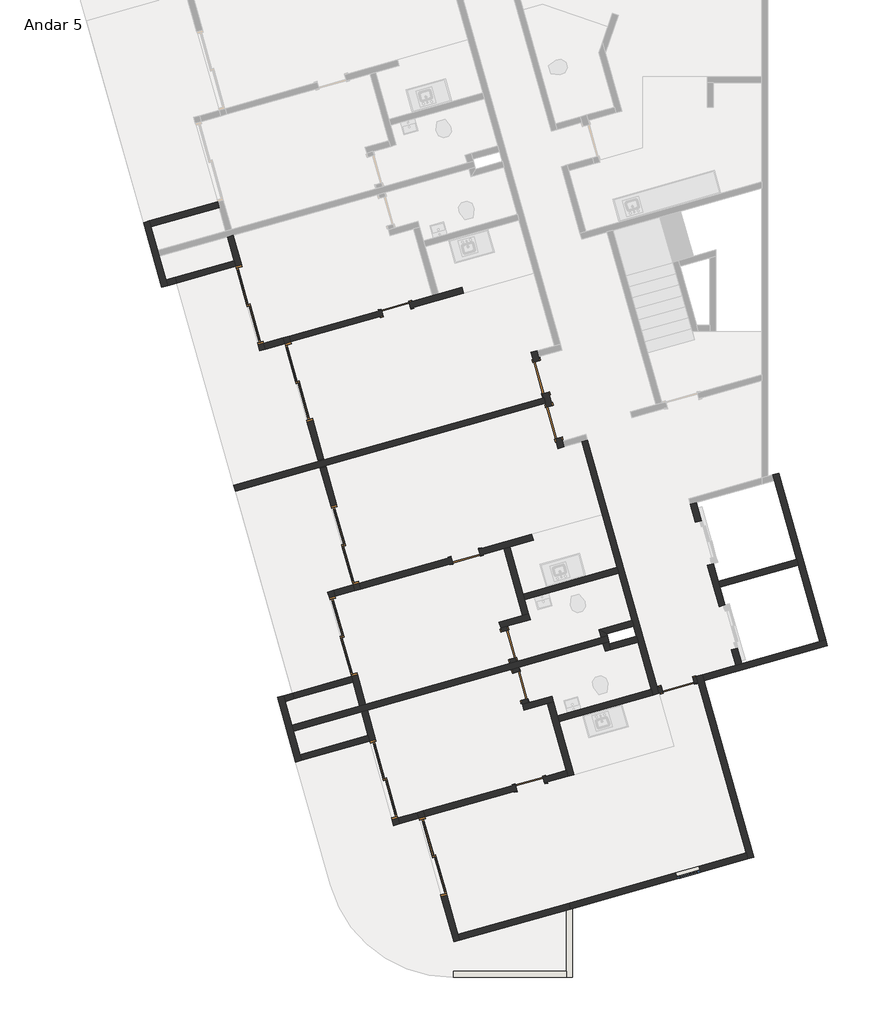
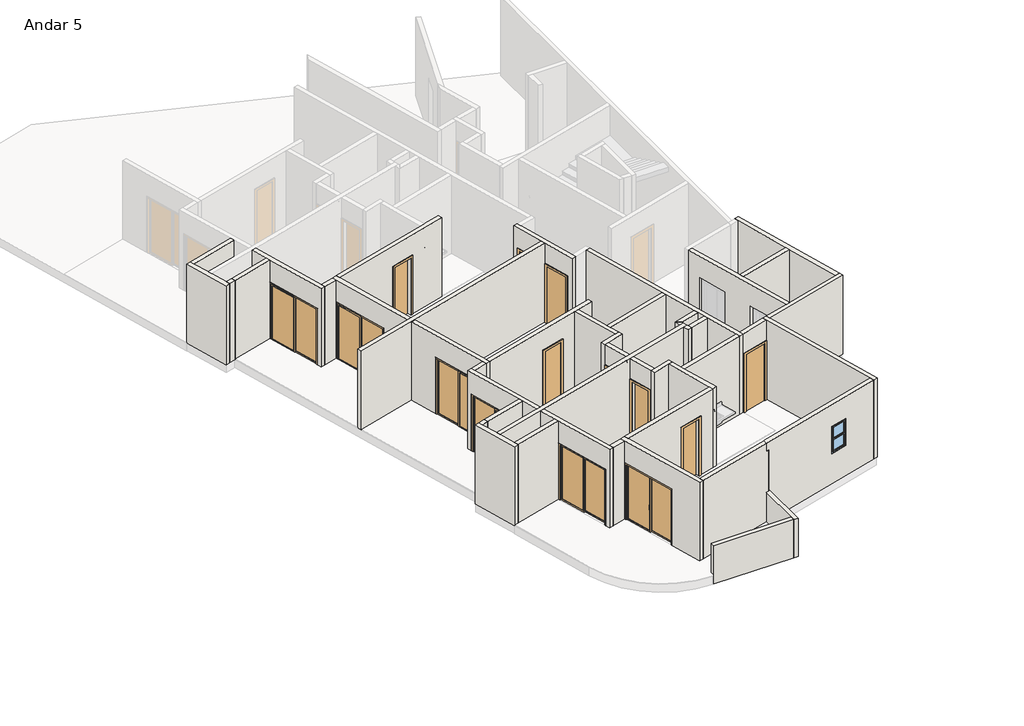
# One storey, part 1 of 3: 46 walls, 14 doors, 1 window.
"""IFC4 building model written with IfcOpenShell, lengths in millimetres."""

from ifc_helpers import new_model, si_unit, frame, origin, place, context, project, spatial, polyline, outline, extrude, faceted_brep, transform, mapped, element, save
from components import p2_80cm_9d4be4ef, p2_80cm_083652d6, p3_70cm_ef4d15e3, p3_70cm_0a698c7c, p4_correr_200cm_eaaa0877, p4_correr_200cm_830b8f20, bx_60cm_cef95a5c

model = new_model("IFC4")

# Units and contexts
model_context = context("Model", 3, world=origin())
ifc_project = project(units=[si_unit("LENGTHUNIT", "METRE", prefix="MILLI")], contexts=[model_context])

# Site, building, storey
site = spatial("IfcSite", under=ifc_project)
building = spatial("IfcBuilding", under=site)
storey = spatial("IfcBuildingStorey", under=building, Name="Andar 5", Elevation=65250.0)

# Doors
placement = place(None, origin())
p2_80cm_shape = p2_80cm_9d4be4ef(model_context)
element("IfcDoor", 1, ObjectType="M_Folha única1 : P2 - 80CM", at=placement, inside=storey, context=model_context, shape_type="MappedRepresentation", body=[
    mapped(p2_80cm_shape, transform((-80566.3456776, 19693.5423602, 65250.0), x_axis=(0.2717679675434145, -0.9623628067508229, 0.0), y_axis=(0.9623628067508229, 0.2717679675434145, 0.0), z_axis=(0.0, 0.0, 1.0))),
])
element("IfcDoor", 2, ObjectType="M_Folha única1 : P2 - 80CM", at=placement, inside=storey, context=model_context, shape_type="MappedRepresentation", body=[
    mapped(p2_80cm_shape, transform((-77213.6668366, 12144.847648, 65250.0), x_axis=(0.9623628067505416, 0.2717679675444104, 0.0), y_axis=(-0.2717679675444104, 0.9623628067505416, 0.0), z_axis=(0.0, 0.0, 1.0))),
])
p2_80cm_2_shape = p2_80cm_083652d6(model_context)
element("IfcDoor", 3, ObjectType="M_Folha única1 : P2 - 80CM", at=placement, inside=storey, context=model_context, shape_type="MappedRepresentation", body=[
    mapped(p2_80cm_2_shape, transform((-80253.8125149, 18586.8251325, 65250.0), x_axis=(-0.2717679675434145, 0.9623628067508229, 0.0), y_axis=(-0.9623628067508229, -0.2717679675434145, 0.0), z_axis=(0.0, 0.0, 1.0))),
])
p3_70cm_shape = p3_70cm_ef4d15e3(model_context)
element("IfcDoor", 4, ObjectType="M_Folha única1 : P3 - 70CM", at=placement, inside=storey, context=model_context, shape_type="MappedRepresentation", body=[
    mapped(p3_70cm_shape, transform((-84129.1775441, 21363.1168842, 65250.0), x_axis=(0.9623628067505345, 0.27176796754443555, 0.0), y_axis=(-0.27176796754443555, 0.9623628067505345, 0.0), z_axis=(0.0, 0.0, 1.0))),
])
element("IfcDoor", 5, ObjectType="M_Folha única1 : P3 - 70CM", at=placement, inside=storey, context=model_context, shape_type="MappedRepresentation", body=[
    mapped(p3_70cm_shape, transform((-80840.7851368, 9718.5269225, 65250.0), x_axis=(0.9623628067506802, 0.2717679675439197, 0.0), y_axis=(-0.2717679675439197, 0.9623628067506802, 0.0), z_axis=(0.0, 0.0, 1.0))),
])
element("IfcDoor", 6, ObjectType="M_Folha única1 : P3 - 70CM", at=placement, inside=storey, context=model_context, shape_type="MappedRepresentation", body=[
    mapped(p3_70cm_shape, transform((-81362.5862327, 13130.1209218, 65250.0), x_axis=(0.27176796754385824, -0.9623628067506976, 0.0), y_axis=(0.9623628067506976, 0.27176796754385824, 0.0), z_axis=(0.0, 0.0, 1.0))),
])
p3_70cm_2_shape = p3_70cm_0a698c7c(model_context)
element("IfcDoor", 7, ObjectType="M_Folha única1 : P3 - 70CM", at=placement, inside=storey, context=model_context, shape_type="MappedRepresentation", body=[
    mapped(p3_70cm_2_shape, transform((-81077.2298668, 12119.6399747, 65250.0), x_axis=(-0.27176796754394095, 0.9623628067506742, 0.0), y_axis=(-0.9623628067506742, -0.27176796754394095, 0.0), z_axis=(0.0, 0.0, 1.0))),
])
element("IfcDoor", 8, ObjectType="M_Folha única1 : P3 - 70CM", at=placement, inside=storey, context=model_context, shape_type="MappedRepresentation", body=[
    mapped(p3_70cm_2_shape, transform((-82417.0393485, 15300.2312016, 65250.0), x_axis=(0.9623628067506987, 0.2717679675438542, 0.0), y_axis=(-0.2717679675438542, 0.9623628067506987, 0.0), z_axis=(0.0, 0.0, 1.0))),
])
p4_correr_200cm_shape = p4_correr_200cm_eaaa0877(model_context)
element("IfcDoor", 9, ObjectType="Porta de correr dupla envidraçada sem revestimento : P4 - CORRER - 200CM", at=placement, inside=storey, context=model_context, shape_type="MappedRepresentation", body=[
    mapped(p4_correr_200cm_shape, transform((-86511.4049952, 19573.3416554, 65250.0), x_axis=(0.2717679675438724, -0.9623628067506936, 0.0), y_axis=(0.9623628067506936, 0.2717679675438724, 0.0), z_axis=(0.0, 0.0, 1.0))),
])
element("IfcDoor", 10, ObjectType="Porta de correr dupla envidraçada sem revestimento : P4 - CORRER - 200CM", at=placement, inside=storey, context=model_context, shape_type="MappedRepresentation", body=[
    mapped(p4_correr_200cm_shape, transform((-87717.4207223, 21466.8516126, 65250.0), x_axis=(0.2717679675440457, -0.9623628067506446, 0.0), y_axis=(0.9623628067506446, 0.2717679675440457, 0.0), z_axis=(0.0, 0.0, 1.0))),
])
element("IfcDoor", 11, ObjectType="Porta de correr dupla envidraçada sem revestimento : P4 - CORRER - 200CM", at=placement, inside=storey, context=model_context, shape_type="MappedRepresentation", body=[
    mapped(p4_correr_200cm_shape, transform((-84429.028315, 9822.2616509, 65250.0), x_axis=(-0.27176796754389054, 0.9623628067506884, 0.0), y_axis=(-0.9623628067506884, -0.27176796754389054, 0.0), z_axis=(0.0, 0.0, 1.0))),
])
element("IfcDoor", 12, ObjectType="Porta de correr dupla envidraçada sem revestimento : P4 - CORRER - 200CM", at=placement, inside=storey, context=model_context, shape_type="MappedRepresentation", body=[
    mapped(p4_correr_200cm_shape, transform((-83223.012588, 7928.7516937, 65250.0), x_axis=(-0.2717679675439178, 0.9623628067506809, 0.0), y_axis=(-0.9623628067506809, -0.2717679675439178, 0.0), z_axis=(0.0, 0.0, 1.0))),
])
p4_correr_200cm_2_shape = p4_correr_200cm_830b8f20(model_context)
element("IfcDoor", 13, ObjectType="Porta de correr dupla envidraçada sem revestimento : P4 - CORRER - 200CM", at=placement, inside=storey, context=model_context, shape_type="MappedRepresentation", body=[
    mapped(p4_correr_200cm_2_shape, transform((-85383.5679299, 15579.5360073, 65250.0), x_axis=(-0.2717679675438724, 0.9623628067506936, 0.0), y_axis=(-0.9623628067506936, -0.2717679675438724, 0.0), z_axis=(0.0, 0.0, 1.0))),
])
element("IfcDoor", 14, ObjectType="Porta de correr dupla envidraçada sem revestimento : P4 - CORRER - 200CM", at=placement, inside=storey, context=model_context, shape_type="MappedRepresentation", body=[
    mapped(p4_correr_200cm_2_shape, transform((-85420.9813965, 13334.8858955, 65250.0), x_axis=(-0.27176796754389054, 0.9623628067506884, 0.0), y_axis=(-0.9623628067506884, -0.27176796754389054, 0.0), z_axis=(0.0, 0.0, 1.0))),
])

# Walls
element("IfcWall", 15, ObjectType="Básica .15 - Externa", at=placement, inside=storey, context=model_context, shape_type="Brep", body=[
    faceted_brep([(-75344.9919691, 7919.3931149, 65250.0), (-76567.7484146, 12249.3196164, 65250.0), (-76608.5136097, 12393.6740374, 65250.0), (-76608.5136097, 12393.6740374, 68150.0), (-76567.7484146, 12249.3196164, 68150.0), (-75344.9919691, 7919.3931149, 68150.0), (-75489.3463901, 7878.6279198, 65250.0), (-75489.3463901, 7878.6279198, 68150.0), (-75530.1115852, 8022.9823408, 68150.0), (-76712.1028356, 12208.5544213, 68150.0), (-76752.8680308, 12352.9088423, 68150.0), (-76752.8680308, 12352.9088423, 65250.0), (-76712.1028356, 12208.5544213, 65250.0), (-75530.1115852, 8022.9823408, 65250.0)], [[[0, 1, 2, 3, 4, 5]], [[6, 7, 8, 9, 10, 11, 12, 13]], [[2, 1, 0, 6, 13, 12, 11]], [[5, 4, 3, 10, 9, 8, 7]], [[0, 5, 7, 6]], [[3, 2, 11, 10]]]),
])
element("IfcWall", 16, ObjectType="Básica .15 -  Interna", at=placement, inside=storey, context=model_context, shape_type="Brep", body=[
    faceted_brep([(-80529.815701, 19288.21464, 65250.0), (-80502.6389043, 19191.9783593, 65250.0), (-80461.8737092, 19047.6239383, 65250.0), (-80434.6969124, 18951.3876576, 65250.0), (-80434.6969124, 18951.3876576, 67350.0), (-80217.2825384, 18181.4974122, 67350.0), (-80217.2825384, 18181.4974122, 65250.0), (-80149.3405465, 17940.9067105, 65250.0), (-80149.3405465, 17940.9067105, 68150.0), (-80461.8737092, 19047.6239383, 68150.0), (-80502.6389043, 19191.9783593, 68150.0), (-80815.172067, 20298.695587, 68150.0), (-80815.172067, 20298.695587, 65250.0), (-80747.2300751, 20058.1048854, 65250.0), (-80747.2300751, 20058.1048854, 67350.0), (-80529.815701, 19288.21464, 67350.0), (-80290.3424914, 18992.1528527, 67350.0), (-80290.3424914, 18992.1528527, 65250.0), (-80385.46128, 19328.9798351, 65250.0), (-80385.46128, 19328.9798351, 67350.0), (-80602.8756541, 20098.8700805, 67350.0), (-80602.8756541, 20098.8700805, 65250.0), (-80630.0524508, 20195.1063612, 65250.0), (-80670.817646, 20339.4607822, 65250.0), (-80670.817646, 20339.4607822, 68150.0), (-80630.0524508, 20195.1063612, 68150.0), (-80045.7513206, 18126.0263266, 68150.0), (-80004.9861255, 17981.6719056, 68150.0), (-80004.9861255, 17981.6719056, 65250.0), (-80045.7513206, 18126.0263266, 65250.0), (-80072.9281174, 18222.2626073, 65250.0), (-80072.9281174, 18222.2626073, 67350.0)], [[[0, 1, 2, 3, 4, 5, 6, 7, 8, 9, 10, 11, 12, 13, 14, 15]], [[16, 17, 18, 19, 20, 21, 22, 23, 24, 25, 26, 27, 28, 29, 30, 31]], [[13, 12, 23, 22, 21]], [[18, 17, 3, 2, 1, 0]], [[30, 29, 28, 7, 6]], [[11, 10, 9, 8, 27, 26, 25, 24]], [[12, 11, 24, 23]], [[8, 7, 28, 27]], [[19, 18, 0, 15]], [[20, 19, 15, 14]], [[21, 20, 14, 13]], [[4, 3, 17, 16]], [[5, 4, 16, 31]], [[6, 5, 31, 30]]]),
])
element("IfcWall", 17, ObjectType="Básica .15 -  Interna", at=placement, inside=storey, context=model_context, shape_type="Brep", body=[
    faceted_brep([(-79571.9228624, 18103.967491, 65250.0), (-78702.2653663, 15024.4065094, 65250.0), (-78661.5001712, 14880.0520884, 65250.0), (-78335.3786101, 13725.2167203, 65250.0), (-78294.613415, 13580.8622993, 65250.0), (-78226.6714231, 13340.2715976, 65250.0), (-78185.906228, 13195.9171766, 65250.0), (-77818.8200634, 11896.0212586, 65250.0), (-77818.8200634, 11896.0212586, 68150.0), (-78185.906228, 13195.9171766, 68150.0), (-78226.6714231, 13340.2715976, 68150.0), (-78294.613415, 13580.8622993, 68150.0), (-78335.3786101, 13725.2167203, 68150.0), (-78661.5001712, 14880.0520884, 68150.0), (-78702.2653663, 15024.4065094, 68150.0), (-79571.9228624, 18103.967491, 68150.0), (-79427.5684414, 18144.7326862, 65250.0), (-79427.5684414, 18144.7326862, 68150.0), (-77715.2308375, 12081.1408747, 68150.0), (-77674.4656424, 11936.7864537, 68150.0), (-77674.4656424, 11936.7864537, 65250.0), (-77715.2308375, 12081.1408747, 65250.0)], [[[0, 1, 2, 3, 4, 5, 6, 7, 8, 9, 10, 11, 12, 13, 14, 15]], [[16, 17, 18, 19, 20, 21]], [[7, 6, 5, 4, 3, 2, 1, 0, 16, 21, 20]], [[15, 14, 13, 12, 11, 10, 9, 8, 19, 18, 17]], [[0, 15, 17, 16]], [[8, 7, 20, 19]]]),
])
element("IfcWall", 18, ObjectType="Básica .15 -  Interna", at=placement, inside=storey, context=model_context, shape_type="Brep", body=[
    faceted_brep([(-85017.5646639, 11630.3683862, 68150.0), (-85180.6254444, 12207.7860702, 68150.0), (-85221.3906395, 12352.1404912, 68150.0), (-85805.6917697, 14421.2205257, 68150.0), (-85805.6917697, 14421.2205257, 65250.0), (-85764.9265746, 14276.8661047, 65250.0), (-85764.9265746, 14276.8661047, 67350.0), (-85221.3906395, 12352.1404912, 67350.0), (-85221.3906395, 12352.1404912, 65250.0), (-85180.6254444, 12207.7860702, 65250.0), (-85017.5646639, 11630.3683862, 65250.0), (-85661.3373487, 14461.9857209, 68150.0), (-85620.5721536, 14317.6312998, 68150.0), (-84873.2102428, 11671.1335813, 68150.0), (-84873.2102428, 11671.1335813, 65250.0), (-85077.0362185, 12392.9056863, 65250.0), (-85077.0362185, 12392.9056863, 67350.0), (-85620.5721536, 14317.6312998, 67350.0), (-85620.5721536, 14317.6312998, 65250.0), (-85661.3373487, 14461.9857209, 65250.0)], [[[0, 1, 2, 3, 4, 5, 6, 7, 8, 9, 10]], [[11, 12, 13, 14, 15, 16, 17, 18, 19]], [[4, 19, 18, 5]], [[14, 10, 9, 8, 15]], [[3, 2, 1, 0, 13, 12, 11]], [[4, 3, 11, 19]], [[0, 10, 14, 13]], [[17, 6, 5, 18]], [[6, 17, 16, 7]], [[7, 16, 15, 8]]]),
])
element("IfcWall", 19, ObjectType="Básica .15 -  Interna", at=placement, inside=storey, context=model_context, shape_type="Brep", body=[
    faceted_brep([(-82710.8886682, 5839.2890616, 68150.0), (-83566.957766, 8870.7319029, 68150.0), (-83607.7229611, 9015.0863239, 68150.0), (-83607.7229611, 9015.0863239, 65250.0), (-83566.957766, 8870.7319029, 65250.0), (-83566.957766, 8870.7319029, 67350.0), (-83023.4218309, 6946.0062894, 67350.0), (-83023.4218309, 6946.0062894, 65250.0), (-82710.8886682, 5839.2890616, 65250.0), (-83463.3685401, 9055.851519, 68150.0), (-83422.603345, 8911.497098, 68150.0), (-82607.2994424, 6024.4086777, 68150.0), (-82566.5342472, 5880.0542567, 68150.0), (-82566.5342472, 5880.0542567, 65250.0), (-82607.2994424, 6024.4086777, 65250.0), (-82879.0674099, 6986.7714845, 65250.0), (-82879.0674099, 6986.7714845, 67350.0), (-83422.603345, 8911.497098, 67350.0), (-83422.603345, 8911.497098, 65250.0), (-83463.3685401, 9055.851519, 65250.0)], [[[0, 1, 2, 3, 4, 5, 6, 7, 8]], [[9, 10, 11, 12, 13, 14, 15, 16, 17, 18, 19]], [[3, 19, 18, 4]], [[13, 8, 7, 15, 14]], [[2, 1, 0, 12, 11, 10, 9]], [[3, 2, 9, 19]], [[0, 8, 13, 12]], [[17, 5, 4, 18]], [[5, 17, 16, 6]], [[6, 16, 15, 7]]]),
])
element("IfcWall", 20, ObjectType="Básica .15 -  Interna", at=placement, inside=storey, context=model_context, shape_type="Brep", body=[
    faceted_brep([(-86046.8404698, 17652.2925145, 65250.0), (-86046.8404698, 17652.2925145, 68150.0), (-86855.3501733, 20515.3218646, 68150.0), (-86896.1153684, 20659.6762856, 68150.0), (-86896.1153684, 20659.6762856, 65250.0), (-86855.3501733, 20515.3218646, 65250.0), (-86855.3501733, 20515.3218646, 67350.0), (-86311.8142382, 18590.596251, 67350.0), (-86311.8142382, 18590.596251, 65250.0), (-85902.4860488, 17693.0577096, 68150.0), (-85902.4860488, 17693.0577096, 65250.0), (-86167.4598172, 18631.3614462, 65250.0), (-86167.4598172, 18631.3614462, 67350.0), (-86710.9957523, 20556.0870597, 67350.0), (-86710.9957523, 20556.0870597, 65250.0), (-86751.7609474, 20700.4414807, 65250.0), (-86751.7609474, 20700.4414807, 68150.0), (-86710.9957523, 20556.0870597, 68150.0)], [[[0, 1, 2, 3, 4, 5, 6, 7, 8]], [[9, 10, 11, 12, 13, 14, 15, 16, 17]], [[10, 0, 8, 11]], [[4, 15, 14, 5]], [[1, 0, 10, 9]], [[3, 2, 1, 9, 17, 16]], [[4, 3, 16, 15]], [[7, 12, 11, 8]], [[12, 7, 6, 13]], [[13, 6, 5, 14]]]),
])
element("IfcWall", 21, ObjectType="Básica .15 - Externa", at=placement, inside=storey, context=model_context, shape_type="Brep", body=[
    faceted_brep([(-79945.4990038, 6620.2256515, 66350.0), (-79945.4990038, 6620.2256515, 65250.0), (-79945.4990038, 6620.2256515, 64950.0), (-79945.4990038, 5119.4122055, 64950.0), (-79945.4990038, 4969.4122055, 64950.0), (-79945.4990038, 4969.4122055, 66350.0), (-79945.4990038, 5119.4122055, 66350.0), (-79795.4990038, 6662.5851389, 64950.0), (-79795.4990038, 6662.5851389, 66350.0), (-79795.4990038, 4969.4122055, 66350.0), (-79795.4990038, 4969.4122055, 64950.0), (-79850.1164062, 6647.1613711, 64950.0)], [[[0, 1, 2, 3, 4, 5, 6]], [[7, 8, 9, 10]], [[4, 3, 2, 11, 7, 10]], [[0, 6, 5, 9, 8]], [[5, 4, 10, 9]], [[0, 8, 7, 11, 2, 1]]]),
])
element("IfcWall", 22, ObjectType="Básica .15 - Externa", at=placement, inside=storey, context=model_context, shape_type="SweptSolid", body=[
    extrude(outline(polyline([(-82713.5540687, 5119.4122055), (-79945.4990038, 5119.4122055), (-79945.4990038, 4969.4122055), (-82713.5540687, 4969.4122055), (-82713.5540687, 5119.4122055)])), frame((0.0, 0.0, 64950.0), z_axis=(0.0, 0.0, 1.0), x_axis=(1.0, 0.0, 0.0)), (0.0, 0.0, 1.0), 1400.0),
])
element("IfcWall", 23, ObjectType="Básica .15 - Externa", at=placement, inside=storey, context=model_context, shape_type="Brep", body=[
    faceted_brep([(-73581.8825825, 13248.3842954, 65250.0), (-73726.2370035, 13207.6191002, 65250.0), (-75646.150803, 12665.442005, 65250.0), (-75790.505224, 12624.6768098, 65250.0), (-76608.5136097, 12393.6740374, 65250.0), (-76608.5136097, 12393.6740374, 68150.0), (-75790.505224, 12624.6768098, 68150.0), (-75646.150803, 12665.442005, 68150.0), (-73726.2370035, 13207.6191002, 68150.0), (-73581.8825825, 13248.3842954, 68150.0), (-73541.1173874, 13104.0298743, 65250.0), (-73541.1173874, 13104.0298743, 68150.0), (-76567.7484146, 12249.3196164, 68150.0), (-76567.7484146, 12249.3196164, 65250.0)], [[[0, 1, 2, 3, 4, 5, 6, 7, 8, 9]], [[10, 11, 12, 13]], [[4, 3, 2, 1, 0, 10, 13]], [[9, 8, 7, 6, 5, 12, 11]], [[0, 9, 11, 10]], [[5, 4, 13, 12]]]),
])
element("IfcWall", 24, ObjectType="Básica .15 - Externa", at=placement, inside=storey, context=model_context, shape_type="Brep", body=[
    faceted_brep([(-74881.2508656, 17297.6610289, 65250.0), (-74840.4856705, 17153.3066079, 65250.0), (-74296.9497354, 15228.5809944, 65250.0), (-74256.1845402, 15084.2265734, 65250.0), (-73726.2370035, 13207.6191002, 65250.0), (-73726.2370035, 13207.6191002, 68150.0), (-74256.1845402, 15084.2265734, 68150.0), (-74296.9497354, 15228.5809944, 68150.0), (-74840.4856705, 17153.3066079, 68150.0), (-74881.2508656, 17297.6610289, 68150.0), (-74736.8964446, 17338.426224, 65250.0), (-74736.8964446, 17338.426224, 68150.0), (-73581.8825825, 13248.3842954, 68150.0), (-73581.8825825, 13248.3842954, 65250.0)], [[[0, 1, 2, 3, 4, 5, 6, 7, 8, 9]], [[10, 11, 12, 13]], [[4, 3, 2, 1, 0, 10, 13]], [[9, 8, 7, 6, 5, 12, 11]], [[0, 9, 11, 10]], [[5, 4, 13, 12]]]),
])
element("IfcWall", 25, ObjectType="Básica .15 -  Interna", at=placement, inside=storey, context=model_context, shape_type="Brep", body=[
    faceted_brep([(-76483.167581, 15077.4768805, 65250.0), (-76197.8112151, 14066.9959334, 65250.0), (-76197.8112151, 14066.9959334, 67375.0), (-75898.8664508, 13008.396846, 67375.0), (-75898.8664508, 13008.396846, 65250.0), (-75790.505224, 12624.6768098, 65250.0), (-75790.505224, 12624.6768098, 68150.0), (-76904.7538909, 16570.3643175, 68150.0), (-76904.7538909, 16570.3643175, 65250.0), (-76782.1123453, 16136.075968, 65250.0), (-76782.1123453, 16136.075968, 67375.0), (-76483.167581, 15077.4768805, 67375.0), (-76053.4567941, 14107.7611286, 67375.0), (-76053.4567941, 14107.7611286, 65250.0), (-76176.0983397, 14542.0494781, 65250.0), (-76216.8635348, 14686.4038991, 65250.0), (-76338.81316, 15118.2420757, 65250.0), (-76338.81316, 15118.2420757, 67375.0), (-76637.7579243, 16176.8411631, 67375.0), (-76637.7579243, 16176.8411631, 65250.0), (-76760.3994699, 16611.1295126, 65250.0), (-76760.3994699, 16611.1295126, 68150.0), (-76216.8635348, 14686.4038991, 68150.0), (-76176.0983397, 14542.0494781, 68150.0), (-75646.150803, 12665.442005, 68150.0), (-75646.150803, 12665.442005, 65250.0), (-75754.5120298, 13049.1620412, 65250.0), (-75754.5120298, 13049.1620412, 67375.0)], [[[0, 1, 2, 3, 4, 5, 6, 7, 8, 9, 10, 11]], [[12, 13, 14, 15, 16, 17, 18, 19, 20, 21, 22, 23, 24, 25, 26, 27]], [[9, 8, 20, 19]], [[26, 25, 5, 4]], [[16, 15, 14, 13, 1, 0]], [[7, 6, 24, 23, 22, 21]], [[8, 7, 21, 20]], [[6, 5, 25, 24]], [[4, 3, 27, 26]], [[2, 1, 13, 12]], [[3, 2, 12, 27]], [[19, 18, 10, 9]], [[17, 16, 0, 11]], [[18, 17, 11, 10]]]),
])
element("IfcWall", 26, ObjectType="Básica .15 -  Interna", at=placement, inside=storey, context=model_context, shape_type="SweptSolid", body=[
    extrude(outline(polyline([(-74256.1845402, 15084.2265734), (-76176.0983397, 14542.0494781), (-76216.8635348, 14686.4038991), (-74296.9497354, 15228.5809944), (-74256.1845402, 15084.2265734)])), frame((0.0, 0.0, 65250.0), z_axis=(0.0, 0.0, 1.0), x_axis=(1.0, 0.0, 0.0)), (0.0, 0.0, 1.0), 2900.0),
])
element("IfcWall", 27, ObjectType="Básica .15 -  Interna", at=placement, inside=storey, context=model_context, shape_type="Brep", body=[
    faceted_brep([(-82566.5342472, 5880.0542567, 65250.0), (-79945.4990038, 6620.2256515, 65250.0), (-79850.1164062, 6647.1613711, 65250.0), (-79850.1164062, 6647.1613711, 67850.0), (-79945.4990038, 6620.2256515, 67850.0), (-79945.4990038, 6620.2256515, 68150.0), (-82566.5342472, 5880.0542567, 68150.0), (-82607.2994424, 6024.4086777, 65250.0), (-82607.2994424, 6024.4086777, 68150.0), (-79945.4990038, 6776.0920243, 68150.0), (-79945.4990038, 6776.0920243, 67850.0), (-79890.8816014, 6791.5157921, 67850.0), (-79890.8816014, 6791.5157921, 65250.0), (-79945.4990038, 6776.0920243, 65250.0)], [[[0, 1, 2, 3, 4, 5, 6]], [[7, 8, 9, 10, 11, 12, 13]], [[2, 1, 0, 7, 13, 12]], [[6, 5, 9, 8]], [[0, 6, 8, 7]], [[2, 12, 11, 3]], [[10, 4, 3, 11]], [[5, 4, 10, 9]]]),
])
element("IfcWall", 28, ObjectType="Básica .15 -  Interna", at=placement, inside=storey, context=model_context, shape_type="Brep", body=[
    faceted_brep([(-85221.3906395, 12352.1404912, 65250.0), (-86668.7560772, 11943.4094383, 65250.0), (-86668.7560772, 11943.4094383, 68150.0), (-85221.3906395, 12352.1404912, 68150.0), (-85221.3906395, 12352.1404912, 67350.0), (-85180.6254444, 12207.7860702, 65250.0), (-85180.6254444, 12207.7860702, 68150.0), (-86627.9908821, 11799.0550173, 68150.0), (-86627.9908821, 11799.0550173, 65250.0)], [[[0, 1, 2, 3, 4]], [[5, 6, 7, 8]], [[1, 0, 5, 8]], [[2, 1, 8, 7]], [[3, 2, 7, 6]], [[0, 4, 3, 6, 5]]]),
])
element("IfcWall", 29, ObjectType="Básica .15 - Externa", at=placement, inside=storey, context=model_context, shape_type="Brep", body=[
    faceted_brep([(-86444.4738537, 10292.215871, 65250.0), (-86485.2390488, 10436.570292, 65250.0), (-86648.2998293, 11013.987976, 65250.0), (-86689.0650245, 11158.342397, 65250.0), (-86852.125805, 11735.7600811, 65250.0), (-86892.8910001, 11880.1145021, 65250.0), (-86892.8910001, 11880.1145021, 68150.0), (-86852.125805, 11735.7600811, 68150.0), (-86689.0650245, 11158.342397, 68150.0), (-86648.2998293, 11013.987976, 68150.0), (-86485.2390488, 10436.570292, 68150.0), (-86444.4738537, 10292.215871, 68150.0), (-86588.8282747, 10251.4506758, 65250.0), (-86588.8282747, 10251.4506758, 68150.0), (-87037.2454211, 11839.349307, 68150.0), (-87037.2454211, 11839.349307, 65250.0)], [[[0, 1, 2, 3, 4, 5, 6, 7, 8, 9, 10, 11]], [[12, 13, 14, 15]], [[5, 4, 3, 2, 1, 0, 12, 15]], [[11, 10, 9, 8, 7, 6, 14, 13]], [[6, 5, 15, 14]], [[0, 11, 13, 12]]]),
])
element("IfcWall", 30, ObjectType="Básica .15 -  Interna", at=placement, inside=storey, context=model_context, shape_type="Brep", body=[
    faceted_brep([(-86444.4738537, 10292.215871, 65250.0), (-84772.9734931, 10764.2418601, 65250.0), (-84772.9734931, 10764.2418601, 67350.0), (-84772.9734931, 10764.2418601, 68150.0), (-86444.4738537, 10292.215871, 68150.0), (-86485.2390488, 10436.570292, 65250.0), (-86485.2390488, 10436.570292, 68150.0), (-84813.7386882, 10908.5962811, 68150.0), (-84813.7386882, 10908.5962811, 65250.0)], [[[0, 1, 2, 3, 4]], [[5, 6, 7, 8]], [[1, 0, 5, 8]], [[4, 3, 7, 6]], [[0, 4, 6, 5]], [[3, 2, 1, 8, 7]]]),
])
element("IfcWall", 31, ObjectType="Básica .15 - Externa", at=placement, inside=storey, context=model_context, shape_type="Brep", body=[
    faceted_brep([(-89732.866261, 21936.8058326, 65250.0), (-89773.6314561, 22081.1602536, 65250.0), (-89936.6922366, 22658.5779377, 65250.0), (-89977.4574318, 22802.9323587, 65250.0), (-90140.5182123, 23380.3500428, 65250.0), (-90181.2834074, 23524.7044638, 65250.0), (-90181.2834074, 23524.7044638, 68150.0), (-90140.5182123, 23380.3500428, 68150.0), (-89977.4574318, 22802.9323587, 68150.0), (-89936.6922366, 22658.5779377, 68150.0), (-89773.6314561, 22081.1602536, 68150.0), (-89732.866261, 21936.8058326, 68150.0), (-89877.220682, 21896.0406375, 65250.0), (-89877.220682, 21896.0406375, 68150.0), (-90325.6378284, 23483.9392686, 68150.0), (-90325.6378284, 23483.9392686, 65250.0)], [[[0, 1, 2, 3, 4, 5, 6, 7, 8, 9, 10, 11]], [[12, 13, 14, 15]], [[5, 4, 3, 2, 1, 0, 12, 15]], [[11, 10, 9, 8, 7, 6, 14, 13]], [[0, 11, 13, 12]], [[6, 5, 15, 14]]]),
])
element("IfcWall", 32, ObjectType="Básica .15 -  Interna", at=placement, inside=storey, context=model_context, shape_type="Brep", body=[
    faceted_brep([(-88102.1310955, 22553.1862428, 65250.0), (-89549.4965332, 22144.4551899, 65250.0), (-89549.4965332, 22144.4551899, 68150.0), (-88102.1310955, 22553.1862428, 68150.0), (-88061.3659003, 22408.8318218, 65250.0), (-88061.3659003, 22408.8318218, 67350.0), (-88061.3659003, 22408.8318218, 68150.0), (-89508.731338, 22000.1007688, 68150.0), (-89508.731338, 22000.1007688, 65250.0)], [[[0, 1, 2, 3]], [[4, 5, 6, 7, 8]], [[1, 0, 4, 8]], [[2, 1, 8, 7]], [[3, 2, 7, 6]], [[0, 3, 6, 5, 4]]]),
])
element("IfcWall", 33, ObjectType="Básica .15 -  Interna", at=placement, inside=storey, context=model_context, shape_type="Brep", body=[
    faceted_brep([(-90140.5182123, 23380.3500428, 65250.0), (-88469.0178517, 23852.3760319, 65250.0), (-88469.0178517, 23852.3760319, 68150.0), (-90140.5182123, 23380.3500428, 68150.0), (-90181.2834074, 23524.7044638, 65250.0), (-90181.2834074, 23524.7044638, 68150.0), (-88509.7830468, 23996.7304529, 68150.0), (-88509.7830468, 23996.7304529, 67350.0), (-88509.7830468, 23996.7304529, 65250.0)], [[[0, 1, 2, 3]], [[4, 5, 6, 7, 8]], [[1, 0, 4, 8]], [[3, 2, 6, 5]], [[0, 3, 5, 4]], [[2, 1, 8, 7, 6]]]),
])
element("IfcWall", 34, ObjectType="Básica .15 -  Interna", at=placement, inside=storey, context=model_context, shape_type="Brep", body=[
    faceted_brep([(-86896.1153684, 20659.6762856, 65250.0), (-87373.4755442, 20524.8714034, 65250.0), (-87373.4755442, 20524.8714034, 67350.0), (-87373.4755442, 20524.8714034, 68150.0), (-86896.1153684, 20659.6762856, 68150.0), (-86855.3501733, 20515.3218646, 65250.0), (-86855.3501733, 20515.3218646, 67350.0), (-86855.3501733, 20515.3218646, 68150.0), (-87332.7103491, 20380.5169824, 68150.0), (-87332.7103491, 20380.5169824, 65250.0)], [[[0, 1, 2, 3, 4]], [[5, 6, 7, 8, 9]], [[1, 0, 5, 9]], [[4, 3, 8, 7]], [[0, 4, 7, 6, 5]], [[3, 2, 1, 9, 8]]]),
])
element("IfcWall", 35, ObjectType="Básica .15 -  Interna", at=placement, inside=storey, context=model_context, shape_type="Brep", body=[
    faceted_brep([(-83607.7229611, 9015.0863239, 65250.0), (-84085.083137, 8880.2814417, 65250.0), (-84085.083137, 8880.2814417, 67350.0), (-84085.083137, 8880.2814417, 68150.0), (-83607.7229611, 9015.0863239, 68150.0), (-83566.957766, 8870.7319029, 65250.0), (-83566.957766, 8870.7319029, 67350.0), (-83566.957766, 8870.7319029, 68150.0), (-84044.3179418, 8735.9270207, 68150.0), (-84044.3179418, 8735.9270207, 65250.0)], [[[0, 1, 2, 3, 4]], [[5, 6, 7, 8, 9]], [[1, 0, 5, 9]], [[4, 3, 8, 7]], [[3, 2, 1, 9, 8]], [[0, 4, 7, 6, 5]]]),
])
element("IfcWall", 36, ObjectType="Básica .15 -  Interna", at=placement, inside=storey, context=model_context, shape_type="Brep", body=[
    faceted_brep([(-85183.9771729, 14596.790603, 65250.0), (-85661.3373487, 14461.9857209, 65250.0), (-85661.3373487, 14461.9857209, 68150.0), (-85183.9771729, 14596.790603, 68150.0), (-85183.9771729, 14596.790603, 67350.0), (-85143.2119778, 14452.436182, 65250.0), (-85143.2119778, 14452.436182, 68150.0), (-85620.5721536, 14317.6312998, 68150.0), (-85620.5721536, 14317.6312998, 67350.0), (-85620.5721536, 14317.6312998, 65250.0)], [[[0, 1, 2, 3, 4]], [[5, 6, 7, 8, 9]], [[1, 0, 5, 9]], [[3, 2, 7, 6]], [[2, 1, 9, 8, 7]], [[0, 4, 3, 6, 5]]]),
])
element("IfcWall", 37, ObjectType="Básica .15 -  Interna", at=placement, inside=storey, context=model_context, shape_type="Brep", body=[
    faceted_brep([(-87477.0647701, 20339.7517872, 68150.0), (-88061.3659003, 22408.8318218, 68150.0), (-88102.1310955, 22553.1862428, 68150.0), (-88265.191876, 23130.6039268, 68150.0), (-88265.191876, 23130.6039268, 65250.0), (-88102.1310955, 22553.1862428, 65250.0), (-88061.3659003, 22408.8318218, 65250.0), (-88061.3659003, 22408.8318218, 67350.0), (-87517.8299653, 20484.1062083, 67350.0), (-87517.8299653, 20484.1062083, 65250.0), (-87477.0647701, 20339.7517872, 65250.0), (-88120.837455, 23171.369122, 68150.0), (-87373.4755442, 20524.8714034, 68150.0), (-87332.7103491, 20380.5169824, 68150.0), (-87332.7103491, 20380.5169824, 65250.0), (-87373.4755442, 20524.8714034, 65250.0), (-87373.4755442, 20524.8714034, 67350.0), (-87917.0114793, 22449.5970169, 67350.0), (-87917.0114793, 22449.5970169, 65250.0), (-88120.837455, 23171.369122, 65250.0)], [[[0, 1, 2, 3, 4, 5, 6, 7, 8, 9, 10]], [[11, 12, 13, 14, 15, 16, 17, 18, 19]], [[14, 10, 9, 15]], [[4, 19, 18, 6, 5]], [[3, 2, 1, 0, 13, 12, 11]], [[0, 10, 14, 13]], [[4, 3, 11, 19]], [[8, 16, 15, 9]], [[16, 8, 7, 17]], [[17, 7, 6, 18]]]),
])
element("IfcWall", 38, ObjectType="Básica .15 -  Interna", at=placement, inside=storey, context=model_context, shape_type="Brep", body=[
    faceted_brep([(-85143.2119778, 14452.436182, 68150.0), (-85183.9771729, 14596.790603, 68150.0), (-85992.4868763, 17459.8199531, 68150.0), (-85992.4868763, 17459.8199531, 65250.0), (-85727.513108, 16521.5162165, 65250.0), (-85727.513108, 16521.5162165, 67350.0), (-85183.9771729, 14596.790603, 67350.0), (-85183.9771729, 14596.790603, 65250.0), (-85143.2119778, 14452.436182, 65250.0), (-85848.1324553, 17500.5851482, 68150.0), (-85039.6227519, 14637.5557982, 68150.0), (-84998.8575568, 14493.2013772, 68150.0), (-84998.8575568, 14493.2013772, 65250.0), (-85039.6227519, 14637.5557982, 65250.0), (-85039.6227519, 14637.5557982, 67350.0), (-85583.158687, 16562.2814117, 67350.0), (-85583.158687, 16562.2814117, 65250.0), (-85848.1324553, 17500.5851482, 65250.0)], [[[0, 1, 2, 3, 4, 5, 6, 7, 8]], [[9, 10, 11, 12, 13, 14, 15, 16, 17]], [[3, 17, 16, 4]], [[12, 8, 7, 13]], [[2, 1, 0, 11, 10, 9]], [[3, 2, 9, 17]], [[0, 8, 12, 11]], [[15, 5, 4, 16]], [[5, 15, 14, 6]], [[6, 14, 13, 7]]]),
])
element("IfcWall", 39, ObjectType="Básica .15 -  Interna", at=placement, inside=storey, context=model_context, shape_type="SweptSolid", body=[
    extrude(outline(polyline([(-80461.8737092, 19047.6239383), (-88068.36111, 16899.5778931), (-88109.1263052, 17043.9323141), (-80502.6389043, 19191.9783593), (-80461.8737092, 19047.6239383)])), frame((0.0, 0.0, 65250.0), z_axis=(0.0, 0.0, 1.0), x_axis=(1.0, 0.0, 0.0)), (0.0, 0.0, 1.0), 2900.0),
])
element("IfcWall", 40, ObjectType="Básica .15 -  Interna", at=placement, inside=storey, context=model_context, shape_type="Brep", body=[
    faceted_brep([(-78945.0553533, 13345.2242614, 65250.0), (-81168.1134369, 12717.4402563, 65250.0), (-81312.4678579, 12676.6750612, 65250.0), (-84873.2102428, 11671.1335813, 65250.0), (-85017.5646639, 11630.3683862, 65250.0), (-86689.0650245, 11158.342397, 65250.0), (-86689.0650245, 11158.342397, 68150.0), (-85017.5646639, 11630.3683862, 68150.0), (-84873.2102428, 11671.1335813, 68150.0), (-81312.4678579, 12676.6750612, 68150.0), (-81168.1134369, 12717.4402563, 68150.0), (-78945.0553533, 13345.2242614, 68150.0), (-78904.2901581, 13200.8698403, 65250.0), (-78904.2901581, 13200.8698403, 68150.0), (-81127.3482417, 12573.0858353, 68150.0), (-81271.7026627, 12532.3206402, 68150.0), (-84832.4450477, 11526.7791603, 68150.0), (-84976.7994687, 11486.0139651, 68150.0), (-86648.2998293, 11013.987976, 68150.0), (-86648.2998293, 11013.987976, 65250.0), (-84976.7994687, 11486.0139651, 65250.0), (-84832.4450477, 11526.7791603, 65250.0), (-81271.7026627, 12532.3206402, 65250.0), (-81127.3482417, 12573.0858353, 65250.0)], [[[0, 1, 2, 3, 4, 5, 6, 7, 8, 9, 10, 11]], [[12, 13, 14, 15, 16, 17, 18, 19, 20, 21, 22, 23]], [[5, 4, 3, 2, 1, 0, 12, 23, 22, 21, 20, 19]], [[11, 10, 9, 8, 7, 6, 18, 17, 16, 15, 14, 13]], [[0, 11, 13, 12]], [[6, 5, 19, 18]]]),
])
element("IfcWall", 41, ObjectType="Básica .15 -  Interna", at=placement, inside=storey, context=model_context, shape_type="Brep", body=[
    faceted_brep([(-84188.6723628, 8695.1618256, 68150.0), (-84772.9734931, 10764.2418601, 68150.0), (-84813.7386882, 10908.5962811, 68150.0), (-84976.7994687, 11486.0139651, 68150.0), (-84976.7994687, 11486.0139651, 65250.0), (-84813.7386882, 10908.5962811, 65250.0), (-84772.9734931, 10764.2418601, 65250.0), (-84772.9734931, 10764.2418601, 67350.0), (-84229.437558, 8839.5162466, 67350.0), (-84229.437558, 8839.5162466, 65250.0), (-84188.6723628, 8695.1618256, 65250.0), (-84832.4450477, 11526.7791603, 68150.0), (-84085.083137, 8880.2814417, 68150.0), (-84044.3179418, 8735.9270207, 68150.0), (-84044.3179418, 8735.9270207, 65250.0), (-84085.083137, 8880.2814417, 65250.0), (-84085.083137, 8880.2814417, 67350.0), (-84628.6190721, 10805.0070552, 67350.0), (-84628.6190721, 10805.0070552, 65250.0), (-84832.4450477, 11526.7791603, 65250.0)], [[[0, 1, 2, 3, 4, 5, 6, 7, 8, 9, 10]], [[11, 12, 13, 14, 15, 16, 17, 18, 19]], [[14, 10, 9, 15]], [[4, 19, 18, 6, 5]], [[3, 2, 1, 0, 13, 12, 11]], [[0, 10, 14, 13]], [[4, 3, 11, 19]], [[17, 7, 6, 18]], [[7, 17, 16, 8]], [[8, 16, 15, 9]]]),
])
element("IfcWall", 42, ObjectType="Básica .15 - Externa", at=placement, inside=storey, context=model_context, shape_type="Brep", body=[
    faceted_brep([(-79850.1164062, 6647.1613711, 67850.0), (-79850.1164062, 6647.1613711, 65250.0), (-75489.3463901, 7878.6279198, 65250.0), (-75489.3463901, 7878.6279198, 68150.0), (-79850.1164062, 6647.1613711, 68150.0), (-79945.4990038, 6620.2256515, 68150.0), (-79945.4990038, 6620.2256515, 67850.0), (-76649.6431667, 7550.9640756, 66350.0), (-77227.0608508, 7387.9032951, 66350.0), (-77227.0608508, 7387.9032951, 67350.0), (-76649.6431667, 7550.9640756, 67350.0), (-79890.8816014, 6791.5157921, 65250.0), (-79890.8816014, 6791.5157921, 67850.0), (-79945.4990038, 6776.0920243, 67850.0), (-79945.4990038, 6776.0920243, 68150.0), (-79890.8816014, 6791.5157921, 68150.0), (-75530.1115852, 8022.9823408, 68150.0), (-75530.1115852, 8022.9823408, 65250.0), (-76690.4083619, 7695.3184966, 66350.0), (-76690.4083619, 7695.3184966, 67350.0), (-77267.8260459, 7532.2577161, 67350.0), (-77267.8260459, 7532.2577161, 66350.0)], [[[0, 1, 2, 3, 4, 5, 6], [7, 8, 9, 10]], [[11, 12, 13, 14, 15, 16, 17], [18, 19, 20, 21]], [[2, 1, 11, 17]], [[5, 4, 3, 16, 15, 14]], [[18, 21, 8, 7]], [[21, 20, 9, 8]], [[20, 19, 10, 9]], [[19, 18, 7, 10]], [[3, 2, 17, 16]], [[0, 12, 11, 1]], [[6, 13, 12, 0]], [[6, 5, 14, 13]]]),
])
element("IfcWall", 43, ObjectType="Básica .15 - Externa", at=placement, inside=storey, context=model_context, shape_type="SweptSolid", body=[
    extrude(outline(polyline([(-89773.6314561, 22081.1602536), (-89549.4965332, 22144.4551899), (-89508.731338, 22000.1007688), (-89732.866261, 21936.8058326), (-89773.6314561, 22081.1602536)])), frame((0.0, 0.0, 65250.0), z_axis=(0.0, 0.0, 1.0), x_axis=(1.0, 0.0, 0.0)), (0.0, 0.0, 1.0), 2900.0),
])
element("IfcWall", 44, ObjectType="Básica .15 - Externa", at=placement, inside=storey, context=model_context, shape_type="SweptSolid", body=[
    extrude(outline(polyline([(-86892.8910001, 11880.1145021), (-86668.7560772, 11943.4094383), (-86627.9908821, 11799.0550173), (-86852.125805, 11735.7600811), (-86892.8910001, 11880.1145021)])), frame((0.0, 0.0, 65250.0), z_axis=(0.0, 0.0, 1.0), x_axis=(1.0, 0.0, 0.0)), (0.0, 0.0, 1.0), 2900.0),
])
element("IfcWall", 45, ObjectType="Básica .15 -  Interna", at=placement, inside=storey, context=model_context, shape_type="Brep", body=[
    faceted_brep([(-82513.5433702, 21897.2996395, 65250.0), (-83090.9610542, 21734.238859, 65250.0), (-83235.3154752, 21693.4736638, 65250.0), (-83812.7331593, 21530.4128833, 65250.0), (-83812.7331593, 21530.4128833, 67350.0), (-84486.387124, 21340.175306, 67350.0), (-84486.387124, 21340.175306, 65250.0), (-86751.7609474, 20700.4414807, 65250.0), (-86751.7609474, 20700.4414807, 68150.0), (-83235.3154752, 21693.4736638, 68150.0), (-83090.9610542, 21734.238859, 68150.0), (-82513.5433702, 21897.2996395, 68150.0), (-83771.9679641, 21386.0584623, 67350.0), (-83771.9679641, 21386.0584623, 65250.0), (-82472.778175, 21752.9452185, 65250.0), (-82472.778175, 21752.9452185, 68150.0), (-86710.9957523, 20556.0870597, 68150.0), (-86710.9957523, 20556.0870597, 67350.0), (-86710.9957523, 20556.0870597, 65250.0), (-84445.6219289, 21195.820885, 65250.0), (-84445.6219289, 21195.820885, 67350.0)], [[[0, 1, 2, 3, 4, 5, 6, 7, 8, 9, 10, 11]], [[12, 13, 14, 15, 16, 17, 18, 19, 20]], [[19, 18, 7, 6]], [[14, 13, 3, 2, 1, 0]], [[11, 10, 9, 8, 16, 15]], [[0, 11, 15, 14]], [[4, 3, 13, 12]], [[5, 4, 12, 20]], [[6, 5, 20, 19]], [[8, 7, 18, 17, 16]]]),
])
element("IfcWall", 46, ObjectType="Básica .15 -  Interna", at=placement, inside=storey, context=model_context, shape_type="SweptSolid", body=[
    extrude(outline(polyline([(-80169.4554031, 11388.8386864), (-77859.7846669, 12041.0818085), (-77819.0194718, 11896.7273875), (-80128.690208, 11244.4842654), (-80169.4554031, 11388.8386864)])), frame((0.0, 0.0, 65250.0), z_axis=(0.0, 0.0, 1.0), x_axis=(1.0, 0.0, 0.0)), (0.0, 0.0, 1.0), 2900.0),
])
element("IfcWall", 47, ObjectType="Básica .15 -  Interna", at=placement, inside=storey, context=model_context, shape_type="SweptSolid", body=[
    extrude(outline(polyline([(-78185.906228, 13195.9171766), (-78849.9365646, 13008.397279), (-78890.7017597, 13152.7517), (-78226.6714231, 13340.2715976), (-78185.906228, 13195.9171766)])), frame((0.0, 0.0, 65250.0), z_axis=(0.0, 0.0, 1.0), x_axis=(1.0, 0.0, 0.0)), (0.0, 0.0, 1.0), 2900.0),
])
element("IfcWall", 48, ObjectType="Básica .15 -  Interna", at=placement, inside=storey, context=model_context, shape_type="Brep", body=[
    faceted_brep([(-80986.3462968, 11521.8396931, 65250.0), (-80408.9286128, 11684.9004736, 65250.0), (-80264.5741917, 11725.6656688, 65250.0), (-80264.5741917, 11725.6656688, 68150.0), (-80408.9286128, 11684.9004736, 68150.0), (-80986.3462968, 11521.8396931, 68150.0), (-81027.1114919, 11666.1941141, 65250.0), (-81027.1114919, 11666.1941141, 68150.0), (-80882.7570709, 11706.9593092, 68150.0), (-80305.3393869, 11870.0200898, 68150.0), (-80305.3393869, 11870.0200898, 65250.0), (-80882.7570709, 11706.9593092, 65250.0)], [[[0, 1, 2, 3, 4, 5]], [[6, 7, 8, 9, 10, 11]], [[2, 1, 0, 6, 11, 10]], [[5, 4, 3, 9, 8, 7]], [[0, 5, 7, 6]], [[3, 2, 10, 9]]]),
])
element("IfcWall", 49, ObjectType="Básica .15 -  Interna", at=placement, inside=storey, context=model_context, shape_type="SweptSolid", body=[
    extrude(outline(polyline([(900.0, -2900.0), (0.0, -2900.0), (0.0, 0.0), (100.0, 0.0), (100.0, -2100.0), (800.0, -2100.0), (800.0, 0.0), (900.0, 0.0), (900.0, -2900.0)])), frame((-81271.7026627, 12532.3206402, 65250.0), z_axis=(0.9623628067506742, 0.271767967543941, 0.0), x_axis=(0.271767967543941, -0.9623628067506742, 0.0)), (0.0, 0.0, 1.0), 150.0),
])
element("IfcWall", 50, ObjectType="Básica .15 -  Interna", at=placement, inside=storey, context=model_context, shape_type="Brep", body=[
    faceted_brep([(-80408.9286128, 11684.9004736, 65250.0), (-79946.9230679, 10048.8837021, 65250.0), (-79906.1578728, 9904.5292811, 65250.0), (-79906.1578728, 9904.5292811, 68150.0), (-79946.9230679, 10048.8837021, 68150.0), (-80408.9286128, 11684.9004736, 68150.0), (-80264.5741917, 11725.6656688, 65250.0), (-80264.5741917, 11725.6656688, 68150.0), (-80169.4554031, 11388.8386864, 68150.0), (-80128.690208, 11244.4842654, 68150.0), (-79761.8034518, 9945.2944763, 68150.0), (-79761.8034518, 9945.2944763, 65250.0), (-80128.690208, 11244.4842654, 65250.0), (-80169.4554031, 11388.8386864, 65250.0)], [[[0, 1, 2, 3, 4, 5]], [[6, 7, 8, 9, 10, 11, 12, 13]], [[2, 1, 0, 6, 13, 12, 11]], [[5, 4, 3, 10, 9, 8, 7]], [[3, 2, 11, 10]], [[0, 5, 7, 6]]]),
])
element("IfcWall", 51, ObjectType="Básica .15 -  Interna", at=placement, inside=storey, context=model_context, shape_type="Brep", body=[
    faceted_brep([(-79946.9230679, 10048.8837021, 65250.0), (-80524.340752, 9885.8229216, 65250.0), (-80524.340752, 9885.8229216, 67350.0), (-81197.9947167, 9695.5853443, 67350.0), (-81197.9947167, 9695.5853443, 65250.0), (-83463.3685401, 9055.851519, 65250.0), (-83463.3685401, 9055.851519, 68150.0), (-79946.9230679, 10048.8837021, 68150.0), (-80483.5755569, 9741.4685006, 67350.0), (-80483.5755569, 9741.4685006, 65250.0), (-79906.1578728, 9904.5292811, 65250.0), (-79906.1578728, 9904.5292811, 68150.0), (-83422.603345, 8911.497098, 68150.0), (-83422.603345, 8911.497098, 67350.0), (-83422.603345, 8911.497098, 65250.0), (-81157.2295216, 9551.2309233, 65250.0), (-81157.2295216, 9551.2309233, 67350.0)], [[[0, 1, 2, 3, 4, 5, 6, 7]], [[8, 9, 10, 11, 12, 13, 14, 15, 16]], [[15, 14, 5, 4]], [[10, 9, 1, 0]], [[7, 6, 12, 11]], [[2, 1, 9, 8]], [[3, 2, 8, 16]], [[4, 3, 16, 15]], [[0, 7, 11, 10]], [[6, 5, 14, 13, 12]]]),
])
element("IfcWall", 52, ObjectType="Básica .15 -  Interna", at=placement, inside=storey, context=model_context, shape_type="Brep", body=[
    faceted_brep([(-79048.6445791, 13160.1046452, 65250.0), (-78994.2909856, 12967.6320839, 65250.0), (-78994.2909856, 12967.6320839, 68150.0), (-79048.6445791, 13160.1046452, 68150.0), (-78904.2901581, 13200.8698403, 65250.0), (-78904.2901581, 13200.8698403, 68150.0), (-78890.7017597, 13152.7517, 68150.0), (-78849.9365646, 13008.397279, 68150.0), (-78849.9365646, 13008.397279, 65250.0), (-78890.7017597, 13152.7517, 65250.0)], [[[0, 1, 2, 3]], [[4, 5, 6, 7, 8, 9]], [[1, 0, 4, 9, 8]], [[3, 2, 7, 6, 5]], [[0, 3, 5, 4]], [[2, 1, 8, 7]]]),
])
element("IfcWall", 53, ObjectType="Básica .15 -  Interna", at=placement, inside=storey, context=model_context, shape_type="SweptSolid", body=[
    extrude(outline(polyline([(-79143.7633678, 13496.9316276), (-78335.3786101, 13725.2167203), (-78294.613415, 13580.8622993), (-78958.6437516, 13393.3424017), (-79143.7633678, 13496.9316276)])), frame((0.0, 0.0, 65250.0), z_axis=(0.0, 0.0, 1.0), x_axis=(1.0, 0.0, 0.0)), (0.0, 0.0, 1.0), 2900.0),
])
element("IfcWall", 54, ObjectType="Básica .15 -  Interna", at=placement, inside=storey, context=model_context, shape_type="SweptSolid", body=[
    extrude(outline(polyline([(-79089.4097743, 13304.4590662), (-79143.7633678, 13496.9316276), (-78958.6437516, 13393.3424017), (-78945.0553533, 13345.2242614), (-79089.4097743, 13304.4590662)])), frame((0.0, 0.0, 65250.0), z_axis=(0.0, 0.0, 1.0), x_axis=(1.0, 0.0, 0.0)), (0.0, 0.0, 1.0), 2900.0),
])
element("IfcWall", 55, ObjectType="Básica .15 -  Interna", at=placement, inside=storey, context=model_context, shape_type="Brep", body=[
    faceted_brep([(-80876.0521187, 13890.981984, 65250.0), (-81020.4065397, 13850.2167888, 65250.0), (-81597.8242238, 13687.1560083, 65250.0), (-81597.8242238, 13687.1560083, 68150.0), (-81020.4065397, 13850.2167888, 68150.0), (-80876.0521187, 13890.981984, 68150.0), (-80835.2869236, 13746.6275629, 65250.0), (-80835.2869236, 13746.6275629, 68150.0), (-81412.7046076, 13583.5667824, 68150.0), (-81557.0590287, 13542.8015873, 68150.0), (-81557.0590287, 13542.8015873, 65250.0), (-81412.7046076, 13583.5667824, 65250.0)], [[[0, 1, 2, 3, 4, 5]], [[6, 7, 8, 9, 10, 11]], [[2, 1, 0, 6, 11, 10]], [[5, 4, 3, 9, 8, 7]], [[0, 5, 7, 6]], [[3, 2, 10, 9]]]),
])
element("IfcWall", 56, ObjectType="Básica .15 -  Interna", at=placement, inside=storey, context=model_context, shape_type="Brep", body=[
    faceted_brep([(-81482.4120846, 15486.2335603, 65250.0), (-81020.4065397, 13850.2167888, 65250.0), (-81020.4065397, 13850.2167888, 68150.0), (-81482.4120846, 15486.2335603, 68150.0), (-81338.0576635, 15526.9987554, 65250.0), (-81338.0576635, 15526.9987554, 68150.0), (-81011.9361025, 14372.1633873, 68150.0), (-80971.1709074, 14227.8089663, 68150.0), (-80876.0521187, 13890.981984, 68150.0), (-80876.0521187, 13890.981984, 65250.0), (-80971.1709074, 14227.8089663, 65250.0), (-81011.9361025, 14372.1633873, 65250.0)], [[[0, 1, 2, 3]], [[4, 5, 6, 7, 8, 9, 10, 11]], [[1, 0, 4, 11, 10, 9]], [[3, 2, 8, 7, 6, 5]], [[0, 3, 5, 4]], [[2, 1, 9, 8]]]),
])
element("IfcWall", 57, ObjectType="Básica .15 -  Interna", at=placement, inside=storey, context=model_context, shape_type="SweptSolid", body=[
    extrude(outline(polyline([(-81011.9361025, 14372.1633873), (-78702.2653663, 15024.4065094), (-78661.5001712, 14880.0520884), (-80971.1709074, 14227.8089663), (-81011.9361025, 14372.1633873)])), frame((0.0, 0.0, 65250.0), z_axis=(0.0, 0.0, 1.0), x_axis=(1.0, 0.0, 0.0)), (0.0, 0.0, 1.0), 2900.0),
])
element("IfcWall", 58, ObjectType="Básica .15 -  Interna", at=placement, inside=storey, context=model_context, shape_type="Brep", body=[
    faceted_brep([(-80801.4051746, 15834.413957, 65250.0), (-82100.5949637, 15467.5272008, 65250.0), (-82100.5949637, 15467.5272008, 67350.0), (-82774.2489285, 15277.2896235, 67350.0), (-82774.2489285, 15277.2896235, 65250.0), (-85039.6227519, 14637.5557982, 65250.0), (-85039.6227519, 14637.5557982, 67350.0), (-85039.6227519, 14637.5557982, 68150.0), (-80801.4051746, 15834.413957, 68150.0), (-82059.8297686, 15323.1727798, 67350.0), (-82059.8297686, 15323.1727798, 65250.0), (-81482.4120846, 15486.2335603, 65250.0), (-81338.0576635, 15526.9987554, 65250.0), (-80760.6399795, 15690.059536, 65250.0), (-80760.6399795, 15690.059536, 68150.0), (-81338.0576635, 15526.9987554, 68150.0), (-81482.4120846, 15486.2335603, 68150.0), (-84998.8575568, 14493.2013772, 68150.0), (-84998.8575568, 14493.2013772, 65250.0), (-82733.4837333, 15132.9352025, 65250.0), (-82733.4837333, 15132.9352025, 67350.0)], [[[0, 1, 2, 3, 4, 5, 6, 7, 8]], [[9, 10, 11, 12, 13, 14, 15, 16, 17, 18, 19, 20]], [[19, 18, 5, 4]], [[13, 12, 11, 10, 1, 0]], [[8, 7, 17, 16, 15, 14]], [[0, 8, 14, 13]], [[2, 1, 10, 9]], [[3, 2, 9, 20]], [[4, 3, 20, 19]], [[7, 6, 5, 18, 17]]]),
])
element("IfcWall", 59, ObjectType="Básica .15 -  Interna", at=placement, inside=storey, context=model_context, shape_type="SweptSolid", body=[
    extrude(outline(polyline([(-250.0, -2100.0), (-250.0, 0.0), (-150.0, 0.0), (-150.0, -2900.0), (-1050.0, -2900.0), (-1050.0, 0.0), (-950.0, 0.0), (-950.0, -2100.0), (-250.0, -2100.0)])), frame((-81271.7026627, 12532.3206402, 65250.0), z_axis=(0.9623628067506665, 0.2717679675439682, 0.0), x_axis=(0.2717679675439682, -0.9623628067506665, 0.0)), (0.0, 0.0, 1.0), 150.0),
])
element("IfcWall", 60, ObjectType="Básica .15 -  Interna", at=placement, inside=storey, context=model_context, shape_type="SweptSolid", body=[
    extrude(outline(polyline([(-1100.0, -2100.0), (-1100.0, 0.0), (-999.9999999, 0.0), (-999.9999999, -2900.0), (-2000.0, -2900.0), (-2000.0, 0.0), (-1900.0, 0.0), (-1900.0, -2100.0), (-1100.0, -2100.0)])), frame((-75749.7400289, 12480.3223888, 65250.0), z_axis=(-0.2717679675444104, 0.9623628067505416, 0.0), x_axis=(0.9623628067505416, 0.2717679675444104, 0.0)), (0.0, 0.0, 1.0), 150.0),
])

# Window
bx_60cm_shape = bx_60cm_cef95a5c(model_context)
element("IfcWindow", 61, ObjectType="Janela pivotante horizontal - 2 Painéis : BX - 60CM", at=placement, inside=storey, context=model_context, shape_type="MappedRepresentation", body=[
    mapped(bx_60cm_shape, transform((-76958.7346063, 7541.6108959, 65700.0), x_axis=(-0.9623628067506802, -0.27176796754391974, 0.0), y_axis=(0.27176796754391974, -0.9623628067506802, 0.0), z_axis=(0.0, 0.0, 1.0))),
])

save(model, "model.ifc")
